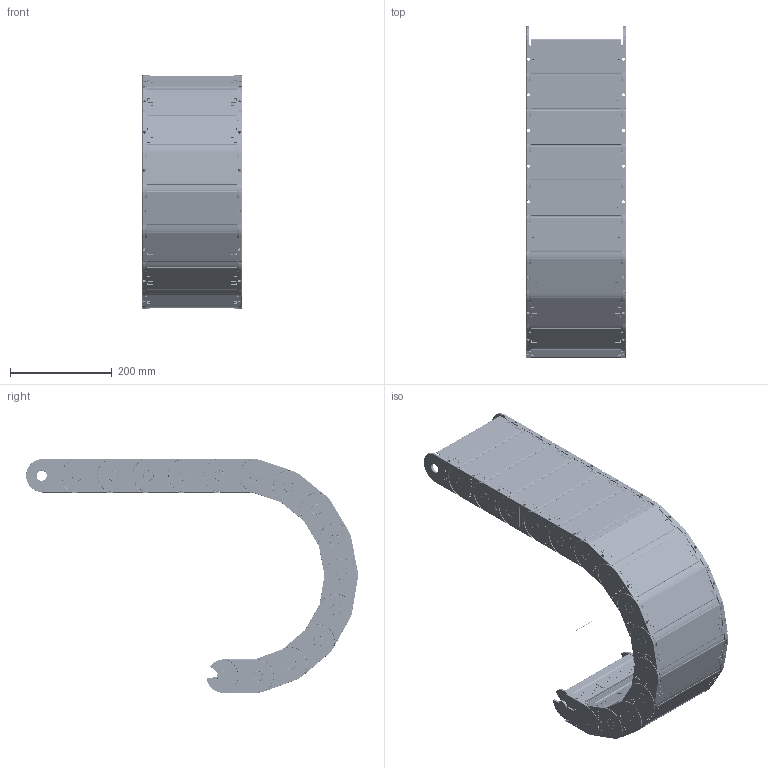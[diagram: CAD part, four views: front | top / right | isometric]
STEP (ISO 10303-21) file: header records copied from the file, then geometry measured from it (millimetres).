
FILE_DESCRIPTION((''),'2;1');
FILE_NAME('C:\Uebbing\PARAMETERKETTEN\KOLIBRI\Kol_65_195_5\KOLIBRI 65_195_5_PARAMETRISCH.stp','2011-11-02T15:21:13',('Uebbing'),(''),'Autodesk Inventor 10','Autodesk Inventor 10','');
FILE_SCHEMA(('AUTOMOTIVE_DESIGN { 1 0 10303 214 1 1 1 1 }'));
Length unit declared in the file: millimetre
Products named in the file (6): KOLIBRI 65_195_5_PARAMETRISCH; Achse; Kolibri_65_195_5; Stecksteg PZ65; Kol_65_195_5 Lasche; Kol_65_195_5 Klappdeckel
Assembly tree (19 placements, depth 3):
  KOLIBRI 65_195_5_PARAMETRISCH
    Achse
    Kolibri_65_195_5  x15
      Stecksteg PZ65
      Kol_65_195_5 Lasche
      Kol_65_195_5 Klappdeckel
Bounding box: 195 x 652.51 x 459.63 mm (x, y, z)
Volume: 2153796.7 mm3; surface area: 1592025 mm2
Topology: 46 solids, 46 shells, 13803 faces, 36784 edges, 23628 vertices
Faces by surface type: plane 6692, bspline 4320, cylinder 2146, torus 495, sphere 90, cone 60
Full cylindrical faces by diameter (mm): 1 x1, 2.514 x15, 4 x45, 4.414 x15, 6 x15, 20 x30
Entity records: 30778 total; most frequent: CARTESIAN_POINT 8309, ORIENTED_EDGE 4838, DIRECTION 4201, EDGE_CURVE 2419, VECTOR 1837, LINE 1837, VERTEX_POINT 1566, AXIS2_PLACEMENT_3D 1182
